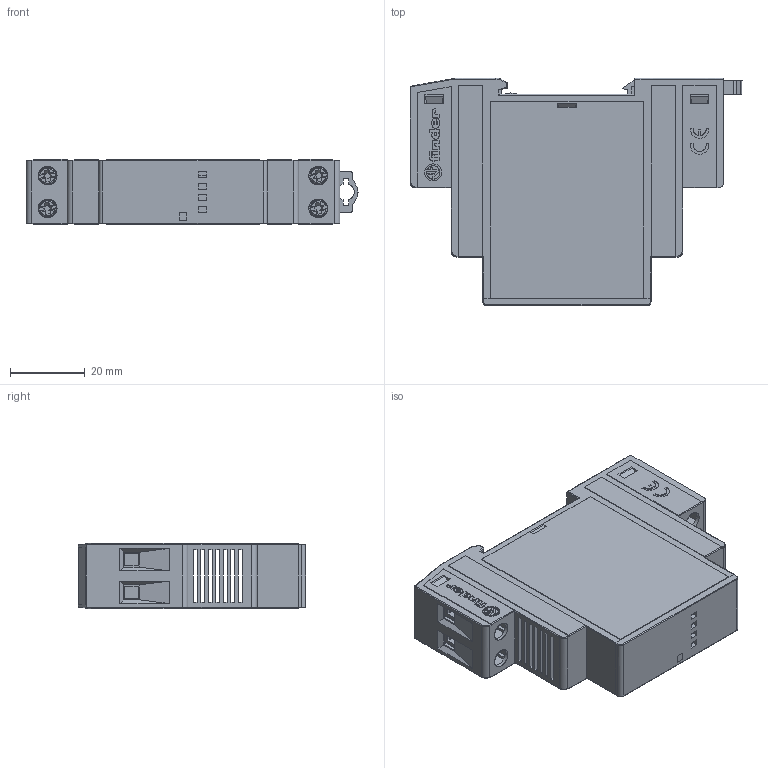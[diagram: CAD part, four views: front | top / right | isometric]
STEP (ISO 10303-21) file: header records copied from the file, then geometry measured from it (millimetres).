
FILE_DESCRIPTION(('STEP AP214'),'2;1');
FILE_NAME('7812_rev00_.stp','2018-12-10T14:44:30',(''),(''),'2007.1.106','THINKDESIGN','');
FILE_SCHEMA(('AUTOMOTIVE_DESIGN'));
Length unit declared in the file: millimetre
Products named in the file (1): top
Bounding box: 88.85 x 60.8 x 17.5 mm (x, y, z)
Surface area: 18702.2 mm2 (no closed solid volume)
Topology: 0 solids, 0 shells, 1037 faces, 6181 edges, 6172 vertices
Faces by surface type: bspline 1037
Entity records: 38450 total; most frequent: CARTESIAN_POINT 22435, COMPOSITE_CURVE_SEGMENT 6181, QUASI_UNIFORM_CURVE 4845, OUTER_BOUNDARY_CURVE 1037, CURVE_BOUNDED_SURFACE 1037, STYLED_ITEM 1037, B_SPLINE_SURFACE_WITH_KNOTS 902, B_SPLINE_CURVE_WITH_KNOTS 848
